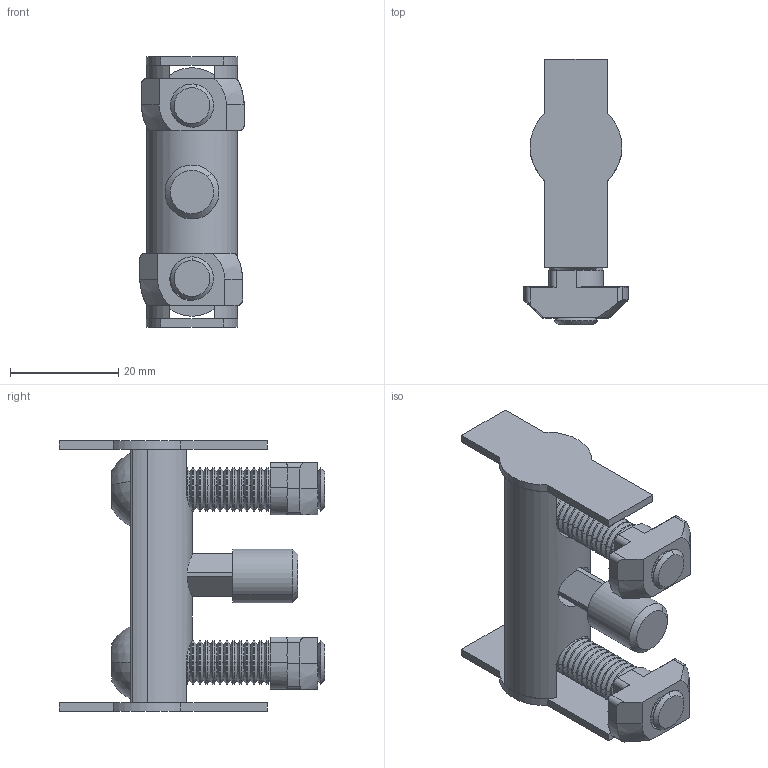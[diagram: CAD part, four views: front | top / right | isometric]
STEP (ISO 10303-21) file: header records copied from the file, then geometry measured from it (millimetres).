
FILE_DESCRIPTION (( 'STEP AP203' ), '1' );
FILE_NAME ('322025_Bolzenverbinder-Satz Ø17x50.step', '2021-12-20T12:53:24', ( '' ), ( '' ), 'SwSTEP 2.0', 'SolidWorks 2021', '' );
FILE_SCHEMA (( 'CONFIG_CONTROL_DESIGN' ));
Length unit declared in the file: millimetre
Products named in the file (6): 322025_Bolzenverbinder-Satz Ø17x50; ISO 7380 - M8 x 35 - 35S_ISO 7380 - M8 x 35 - 35S; 99902003 Bolzenverbinder Ø17x50; 999510 Abdeckkappe für Bolzenverbinder Ø17; 999479 Fixierbolzen; 342040 Hammermutter Nut 10 M8
Assembly tree (8 placements, depth 2):
  322025_Bolzenverbinder-Satz Ø17x50
    99902003 Bolzenverbinder Ø17x50
    ISO 7380 - M8 x 35 - 35S_ISO 7380 - M8 x 35 - 35S  x2
    999479 Fixierbolzen
    342040 Hammermutter Nut 10 M8  x2
    999510 Abdeckkappe für Bolzenverbinder Ø17  x2
Bounding box: 19.3 x 49.13 x 50 mm (x, y, z)
Volume: 13387.7 mm3; surface area: 11315.9 mm2
Topology: 8 solids, 8 shells, 581 faces, 1548 edges, 984 vertices
Faces by surface type: cone 222, cylinder 207, plane 136, torus 6, bspline 6, sphere 4
Entity records: 14001 total; most frequent: CARTESIAN_POINT 5491, DIRECTION 1722, ORIENTED_EDGE 1648, EDGE_CURVE 824, AXIS2_PLACEMENT_3D 672, VERTEX_POINT 526, VECTOR 378, LINE 378
